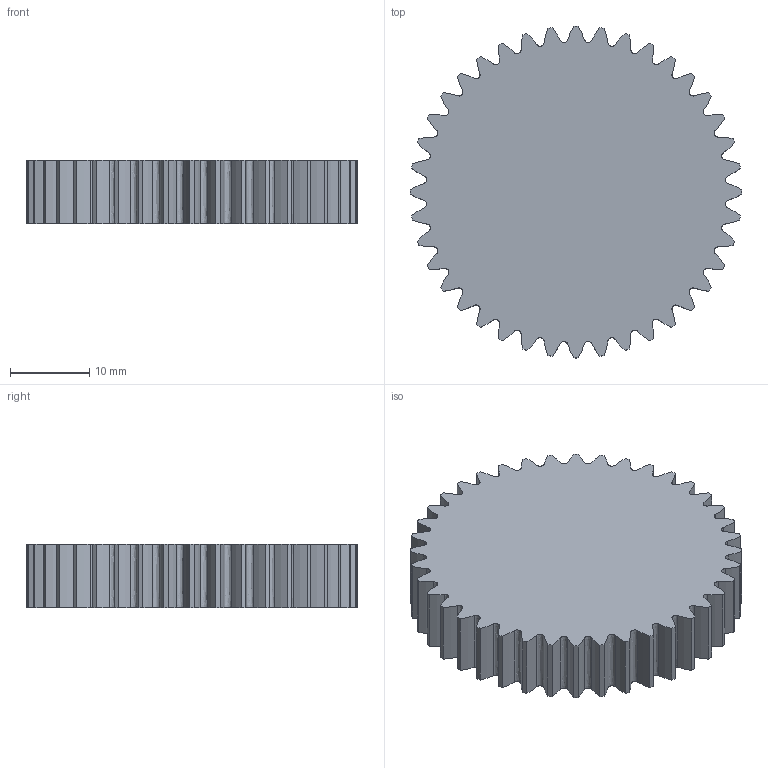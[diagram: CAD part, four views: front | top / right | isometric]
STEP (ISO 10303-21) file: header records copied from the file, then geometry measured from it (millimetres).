
FILE_DESCRIPTION(/* description */ (''),/* implementation_level */ '2;1');
FILE_NAME(/* name */ 'C:/Users/Brandon/Desktop/gears 25deg mod1 fillet.5/40t.step',/* time_stamp */ '2018-01-03T17:38:15-06:00',/* author */ (''),/* organization */ (''),/* preprocessor_version */ 'ST-DEVELOPER v16.13',/* originating_system */ 'Autodesk Translation Framework v6.5.0.72',/* authorisation */ '');
FILE_SCHEMA (('AUTOMOTIVE_DESIGN { 1 0 10303 214 3 1 1 }'));
Length unit declared in the file: millimetre
Products named in the file (3): (Unsaved); Spur Gear (12 teeth); Spur Gear (40 teeth)
Assembly tree (2 placements, depth 2):
  (Unsaved)
    Spur Gear (12 teeth)
    Spur Gear (40 teeth)
Bounding box: 42 x 42 x 8 mm (x, y, z)
Volume: 10050.8 mm3; surface area: 4296.9 mm2
Topology: 1 solids, 1 shells, 162 faces, 480 edges, 320 vertices
Faces by surface type: bspline 120, cylinder 40, plane 2
Entity records: 25948 total; most frequent: CARTESIAN_POINT 22687, ORIENTED_EDGE 960, EDGE_CURVE 480, DIRECTION 334, VERTEX_POINT 320, FACE_OUTER_BOUND 162, EDGE_LOOP 162, ADVANCED_FACE 162
